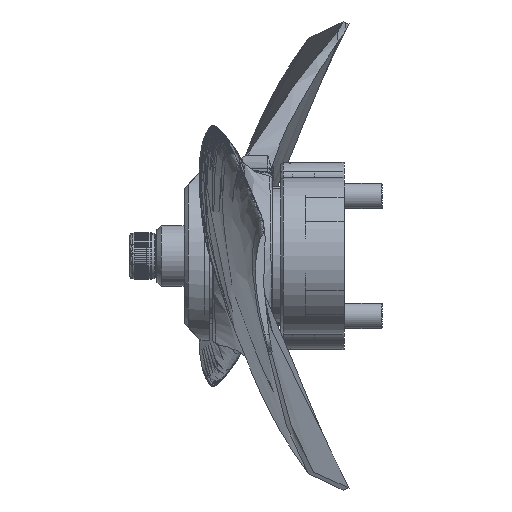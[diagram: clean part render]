
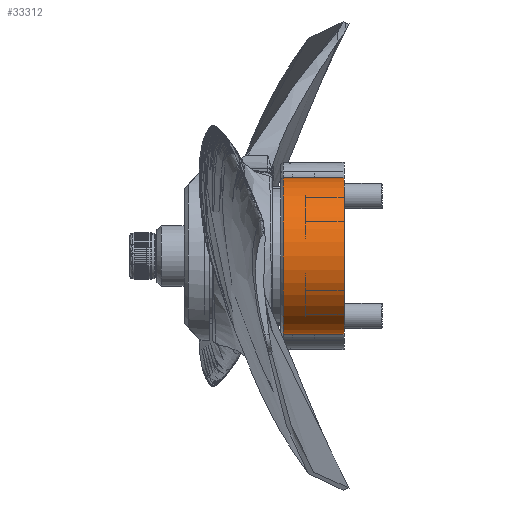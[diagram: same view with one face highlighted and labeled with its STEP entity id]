
A CAD part, left-side view. The second image highlights one B-rep face of the part: STEP entity #33312.
In plain terms, the highlighted cylindrical face has radius 9.25 mm (diameter 18.5 mm), a partial arc.
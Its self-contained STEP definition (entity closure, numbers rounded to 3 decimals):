
#5585 = CARTESIAN_POINT ( 'NONE',  ( -25.5, 7.2, 9.25 ) ) ;
#5980 = CIRCLE ( 'NONE', #52869, 9.25 ) ;
#6831 = ORIENTED_EDGE ( 'NONE', *, *, #16939, .T. ) ;
#9626 = CARTESIAN_POINT ( 'NONE',  ( -25.5, 7.2, -9.25 ) ) ;
#12645 = ORIENTED_EDGE ( 'NONE', *, *, #16431, .T. ) ;
#14127 = FACE_OUTER_BOUND ( 'NONE', #47527, .T. ) ;
#14223 = DIRECTION ( 'NONE',  ( 0., -1., 0. ) ) ;
#14547 = DIRECTION ( 'NONE',  ( 0., 0., -1. ) ) ;
#16431 = EDGE_CURVE ( 'NONE', #27840, #68832, #5980, .T. ) ;
#16939 = EDGE_CURVE ( 'NONE', #77270, #73888, #59471, .T. ) ;
#27840 = VERTEX_POINT ( 'NONE', #70527 ) ;
#31303 = CARTESIAN_POINT ( 'NONE',  ( -25.5, 0., 9.25 ) ) ;
#33312 = ADVANCED_FACE ( 'NONE', ( #14127 ), #53134, .T. ) ;
#33548 = LINE ( 'NONE', #46552, #55381 ) ;
#41876 = CARTESIAN_POINT ( 'NONE',  ( -25.5, 7.2, 0. ) ) ;
#44246 = LINE ( 'NONE', #51367, #44267 ) ;
#44267 = VECTOR ( 'NONE', #70641, 1000. ) ;
#46552 = CARTESIAN_POINT ( 'NONE',  ( -25.5, 7.5, -9.25 ) ) ;
#47527 = EDGE_LOOP ( 'NONE', ( #70366, #6831, #48772, #12645 ) ) ;
#48772 = ORIENTED_EDGE ( 'NONE', *, *, #79045, .T. ) ;
#51367 = CARTESIAN_POINT ( 'NONE',  ( -25.5, 7.5, 9.25 ) ) ;
#52869 = AXIS2_PLACEMENT_3D ( 'NONE', #80666, #73958, #61790 ) ;
#53134 = CYLINDRICAL_SURFACE ( 'NONE', #57517, 9.25 ) ;
#54046 = DIRECTION ( 'NONE',  ( 0., -1., 0. ) ) ;
#54449 = DIRECTION ( 'NONE',  ( 0., 0., 1. ) ) ;
#55381 = VECTOR ( 'NONE', #14223, 1000. ) ;
#57517 = AXIS2_PLACEMENT_3D ( 'NONE', #58622, #72021, #14547 ) ;
#57522 = EDGE_CURVE ( 'NONE', #77270, #68832, #44246, .T. ) ;
#58622 = CARTESIAN_POINT ( 'NONE',  ( -25.5, 7.5, 0. ) ) ;
#59471 = CIRCLE ( 'NONE', #75678, 9.25 ) ;
#61790 = DIRECTION ( 'NONE',  ( 0., 0., 1. ) ) ;
#68832 = VERTEX_POINT ( 'NONE', #31303 ) ;
#70366 = ORIENTED_EDGE ( 'NONE', *, *, #57522, .F. ) ;
#70527 = CARTESIAN_POINT ( 'NONE',  ( -25.5, 0., -9.25 ) ) ;
#70641 = DIRECTION ( 'NONE',  ( 0., -1., 0. ) ) ;
#72021 = DIRECTION ( 'NONE',  ( 0., -1., 0. ) ) ;
#73888 = VERTEX_POINT ( 'NONE', #9626 ) ;
#73958 = DIRECTION ( 'NONE',  ( 0., 1., 0. ) ) ;
#75678 = AXIS2_PLACEMENT_3D ( 'NONE', #41876, #54046, #54449 ) ;
#77270 = VERTEX_POINT ( 'NONE', #5585 ) ;
#79045 = EDGE_CURVE ( 'NONE', #73888, #27840, #33548, .T. ) ;
#80666 = CARTESIAN_POINT ( 'NONE',  ( -25.5, 0., 0. ) ) ;
